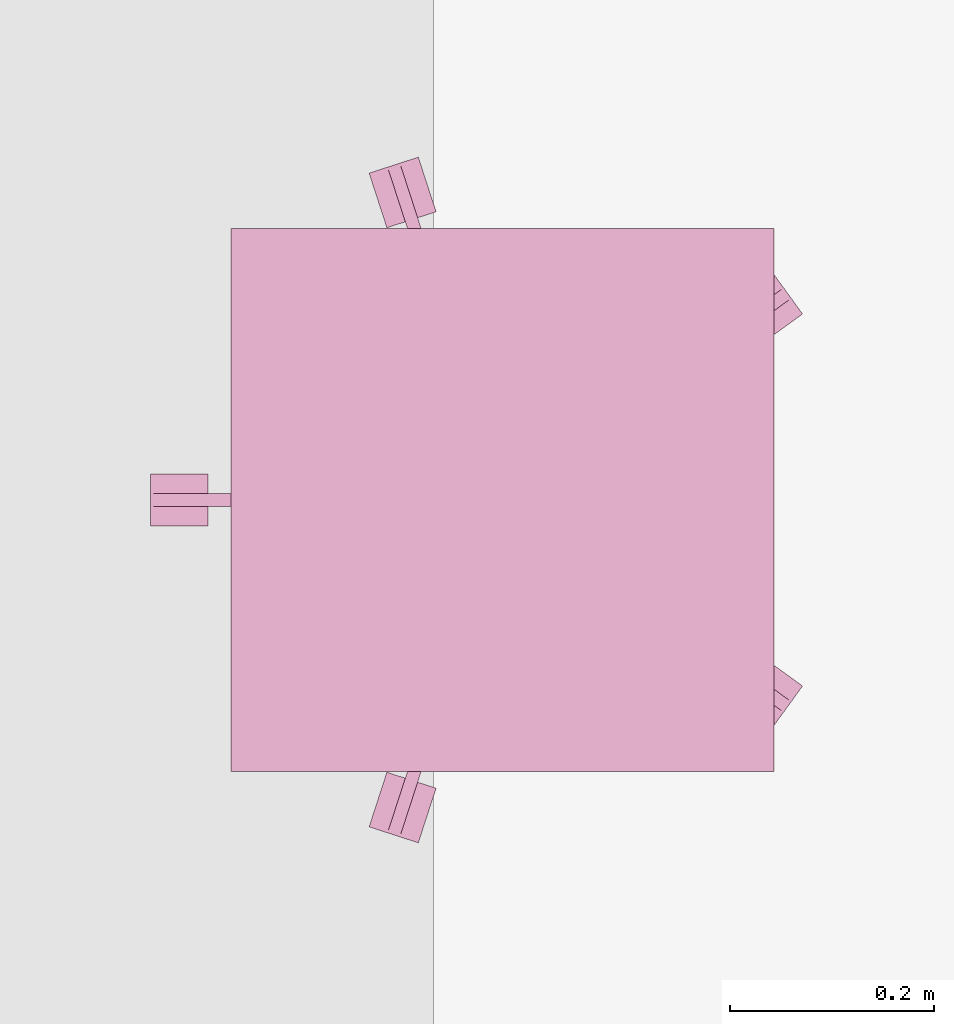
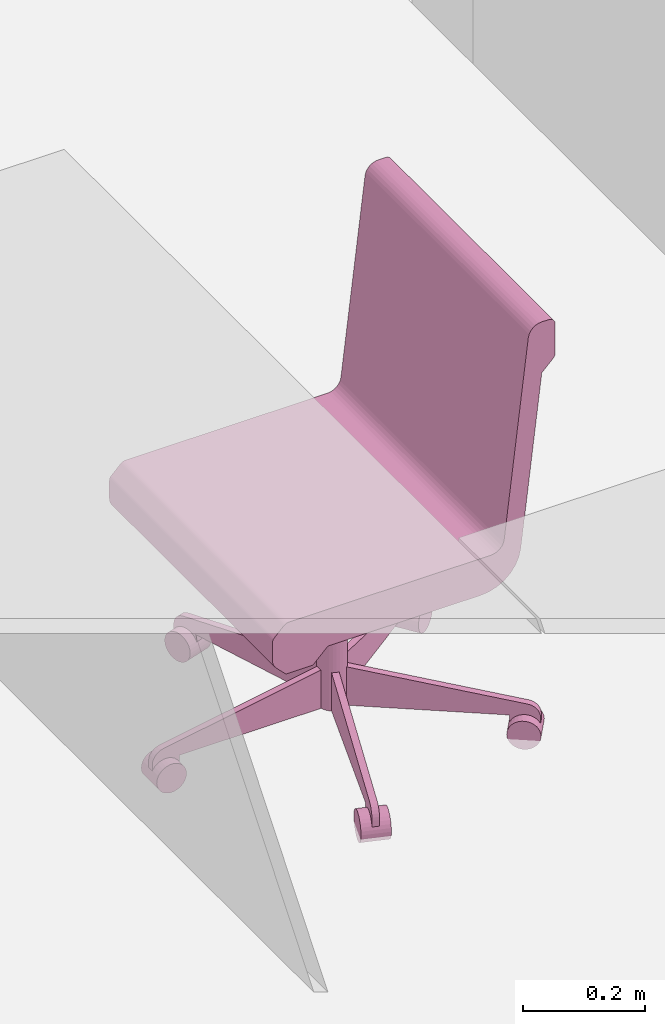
# One storey, part 28 of 32: 1 furnishing.
"""IFC2X3 building model written with IfcOpenShell, lengths in metres."""

from ifc_helpers import new_model, entity, si_unit, converted_unit, derived_unit, direction, frame, frame_2d, origin, place, context, subcontext, project, spatial, polyline, circle_curve, parameter, trimmed, segment, composite_curve, circle, outline, extrude, source, transform, mapped, material, material_list, type_object, type_shapes, element, save


model = new_model("IFC2X3")

# Units and contexts
model_context = context("Model", 3, precision=1e-05, world=origin(), true_north=direction((6.12303176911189e-17, 1.0)))
plan_context = context("Plan", 3, precision=1e-05, world=origin(), true_north=direction((6.12303176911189e-17, 1.0)))
body_context = subcontext(model_context, "Body", "Model", "MODEL_VIEW")
ifc_project = project(units=[si_unit("LENGTHUNIT", "METRE"), si_unit("AREAUNIT", "SQUARE_METRE"), si_unit("VOLUMEUNIT", "CUBIC_METRE"), converted_unit("PLANEANGLEUNIT", "DEGREE", entity("IfcRatioMeasure", 0.0174532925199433), si_unit("PLANEANGLEUNIT", "RADIAN"), dimensions=[0, 0, 0, 0, 0, 0, 0]), si_unit("MASSUNIT", "GRAM", prefix="KILO"), derived_unit("MASSDENSITYUNIT", [(si_unit("MASSUNIT", "GRAM", prefix="KILO"), 1), (si_unit("LENGTHUNIT", "METRE"), -3)]), derived_unit("MOMENTOFINERTIAUNIT", [(si_unit("LENGTHUNIT", "METRE"), 4)]), si_unit("TIMEUNIT", "SECOND"), si_unit("FREQUENCYUNIT", "HERTZ"), si_unit("THERMODYNAMICTEMPERATUREUNIT", "DEGREE_CELSIUS"), derived_unit("THERMALTRANSMITTANCEUNIT", [(si_unit("MASSUNIT", "GRAM", prefix="KILO"), 1), (si_unit("THERMODYNAMICTEMPERATUREUNIT", "KELVIN"), -1), (si_unit("TIMEUNIT", "SECOND"), -3)]), derived_unit("VOLUMETRICFLOWRATEUNIT", [(si_unit("LENGTHUNIT", "METRE"), 3), (si_unit("TIMEUNIT", "SECOND"), -1)]), si_unit("ELECTRICCURRENTUNIT", "AMPERE"), si_unit("ELECTRICVOLTAGEUNIT", "VOLT"), si_unit("POWERUNIT", "WATT"), si_unit("FORCEUNIT", "NEWTON", prefix="KILO"), si_unit("ILLUMINANCEUNIT", "LUX"), si_unit("LUMINOUSFLUXUNIT", "LUMEN"), si_unit("LUMINOUSINTENSITYUNIT", "CANDELA"), derived_unit("USERDEFINED", [(si_unit("MASSUNIT", "GRAM", prefix="KILO"), -1), (si_unit("LENGTHUNIT", "METRE"), -2), (si_unit("TIMEUNIT", "SECOND"), 3), (si_unit("LUMINOUSFLUXUNIT", "LUMEN"), 1)]), derived_unit("LINEARVELOCITYUNIT", [(si_unit("LENGTHUNIT", "METRE"), 1), (si_unit("TIMEUNIT", "SECOND"), -1)]), si_unit("PRESSUREUNIT", "PASCAL"), derived_unit("USERDEFINED", [(si_unit("LENGTHUNIT", "METRE"), -2), (si_unit("MASSUNIT", "GRAM", prefix="KILO"), 1), (si_unit("TIMEUNIT", "SECOND"), -2)]), derived_unit("LINEARFORCEUNIT", [(si_unit("MASSUNIT", "GRAM", prefix="KILO"), 1), (si_unit("LENGTHUNIT", "METRE"), 1), (si_unit("TIMEUNIT", "SECOND"), -2), (si_unit("LENGTHUNIT", "METRE"), -1)]), derived_unit("PLANARFORCEUNIT", [(si_unit("MASSUNIT", "GRAM", prefix="KILO"), 1), (si_unit("LENGTHUNIT", "METRE"), 1), (si_unit("TIMEUNIT", "SECOND"), -2), (si_unit("LENGTHUNIT", "METRE"), -2)])], contexts=[model_context, plan_context])

# Site, building, storey, space
site_placement = place(None, origin())
site = spatial("IfcSite", under=ifc_project, at=site_placement, Name="Default", CompositionType="ELEMENT")
building_placement = place(site_placement, origin())
building = spatial("IfcBuilding", under=site, at=building_placement, CompositionType="ELEMENT")
storey_placement = place(building_placement, origin())
storey = spatial("IfcBuildingStorey", under=building, at=storey_placement, Name="0 Mairie RDC 0.00", CompositionType="ELEMENT", Elevation=-1.94916083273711e-14)
space_placement = place(storey_placement, origin())
space = spatial("IfcSpace", under=storey, at=space_placement, Name="16", CompositionType="ELEMENT", InteriorOrExteriorSpace="INTERNAL")

# Furnishing
ifc_material_1 = material(Name="Plastique - Gris foncé")
ifc_material_2 = material(Name="Textile - Bleu")
ifc_material_list_1 = material_list([ifc_material_1, ifc_material_1, ifc_material_1, ifc_material_1, ifc_material_1, ifc_material_1, ifc_material_1, ifc_material_1, ifc_material_1, ifc_material_1, ifc_material_2, ifc_material_1, ifc_material_1])
ifc_material_list_2 = material_list([ifc_material_1, ifc_material_1, ifc_material_1, ifc_material_1, ifc_material_1, ifc_material_1, ifc_material_1, ifc_material_1, ifc_material_1, ifc_material_1, ifc_material_2, ifc_material_1, ifc_material_1])
furniture_type = type_object("IfcFurnitureType", Name="Mobilier : Siège - 02 : Siège - 02", material=ifc_material_list_2)
shared_shape = source(origin(), body_context, "Body", "SweptSolid", [
    extrude(circle(Radius=0.0282002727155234, at=frame_2d((0.0, -4.65294469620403e-17), x_axis=(1.0, 0.0))), frame((0.43510223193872, 0.141215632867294, 0.0281835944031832), z_axis=(0.309016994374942, -0.951056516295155, 0.0), x_axis=(0.951056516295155, 0.309016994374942, 0.0)), (0.0, 0.0, 1.0), 0.0508),
    extrude(outline(composite_curve([segment(polyline([(-0.0899361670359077, -0.0155525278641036), (0.202163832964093, -0.0155525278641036)]), True, "CONTINUOUS"), segment(polyline([(0.202163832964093, -0.0155525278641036), (0.202163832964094, 0.0606474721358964)]), True, "CONTINUOUS"), segment(polyline([(0.202163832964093, 0.0606474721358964), (0.176763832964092, 0.0606474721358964)]), True, "CONTINUOUS"), segment(polyline([(0.176763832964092, 0.0606474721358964), (-0.119746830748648, 0.00836464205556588)]), True, "CONTINUOUS"), segment(trimmed(circle_curve(frame_2d((-0.115336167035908, -0.0166494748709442), x_axis=(-1.0, 0.0)), 0.0254), [parameter(280.0)], [parameter(0.0)], True, "PARAMETER"), True, "CONTINUOUS"), segment(polyline([(-0.140736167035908, -0.0166494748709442), (-0.140736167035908, -0.0409525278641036)]), True, "CONTINUOUS"), segment(polyline([(-0.140736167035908, -0.0409525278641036), (-0.0899361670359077, -0.0409525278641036)]), True, "CONTINUOUS"), segment(polyline([(-0.0899361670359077, -0.0409525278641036), (-0.0899361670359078, -0.0155525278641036)]), True, "CONTINUOUS")], self_intersect=False)), frame((0.335222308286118, 0.0753787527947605, 0.0691361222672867), z_axis=(-0.309016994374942, 0.951056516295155, 0.0), x_axis=(-0.951056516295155, -0.309016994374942, 0.0)), (0.0, 0.0, 1.0), 0.0127),
    extrude(circle(Radius=0.0282002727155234, at=frame_2d((0.0, -4.65294469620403e-17), x_axis=(1.0, 0.0))), frame((0.307063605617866, -0.252846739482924, 0.0281835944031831), z_axis=(0.80901699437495, 0.58778525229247, 0.0), x_axis=(0.58778525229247, -0.80901699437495, 0.0)), (0.0, 0.0, 1.0), 0.0508),
    extrude(outline(composite_curve([segment(polyline([(-0.0899361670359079, -0.0155525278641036), (0.202163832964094, -0.0155525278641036)]), True, "CONTINUOUS"), segment(polyline([(0.202163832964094, -0.0155525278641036), (0.202163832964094, 0.0606474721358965)]), True, "CONTINUOUS"), segment(polyline([(0.202163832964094, 0.0606474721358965), (0.176763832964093, 0.0606474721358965)]), True, "CONTINUOUS"), segment(polyline([(0.176763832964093, 0.0606474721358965), (-0.119746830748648, 0.00836464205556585)]), True, "CONTINUOUS"), segment(trimmed(circle_curve(frame_2d((-0.115336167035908, -0.0166494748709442), x_axis=(-1.0, 0.0)), 0.0254), [parameter(280.0)], [parameter(0.0)], True, "PARAMETER"), True, "CONTINUOUS"), segment(polyline([(-0.140736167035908, -0.0166494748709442), (-0.140736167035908, -0.0409525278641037)]), True, "CONTINUOUS"), segment(polyline([(-0.140736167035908, -0.0409525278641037), (-0.0899361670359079, -0.0409525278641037)]), True, "CONTINUOUS"), segment(polyline([(-0.0899361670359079, -0.0409525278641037), (-0.0899361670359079, -0.0155525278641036)]), True, "CONTINUOUS")], self_intersect=False)), frame((0.254682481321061, -0.148340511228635, 0.0691361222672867), z_axis=(0.80901699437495, 0.58778525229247, 0.0), x_axis=(-0.58778525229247, 0.80901699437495, 0.0)), (0.0, 0.0, 1.0), 0.0127),
    extrude(circle(Radius=0.0282002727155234, at=frame_2d((-4.97260413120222e-18, -4.65294469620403e-17), x_axis=(1.0, 0.0))), frame((-0.0661800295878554, -0.222987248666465, 0.0281835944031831), z_axis=(0.809016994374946, -0.587785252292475, 0.0), x_axis=(-0.587785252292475, -0.809016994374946, 0.0)), (0.0, 0.0, 1.0), 0.0508),
    extrude(outline(composite_curve([segment(polyline([(-0.0899361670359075, -0.0155525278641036), (0.202163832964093, -0.0155525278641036)]), True, "CONTINUOUS"), segment(polyline([(0.202163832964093, -0.0155525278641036), (0.202163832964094, 0.0606474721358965)]), True, "CONTINUOUS"), segment(polyline([(0.202163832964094, 0.0606474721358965), (0.176763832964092, 0.0606474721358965)]), True, "CONTINUOUS"), segment(polyline([(0.176763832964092, 0.0606474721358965), (-0.119746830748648, 0.00836464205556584)]), True, "CONTINUOUS"), segment(trimmed(circle_curve(frame_2d((-0.115336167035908, -0.0166494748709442), x_axis=(-1.0, 0.0)), 0.0254), [parameter(280.0)], [parameter(0.0)], True, "PARAMETER"), True, "CONTINUOUS"), segment(polyline([(-0.140736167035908, -0.0166494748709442), (-0.140736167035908, -0.0409525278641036)]), True, "CONTINUOUS"), segment(polyline([(-0.140736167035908, -0.0409525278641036), (-0.0899361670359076, -0.0409525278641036)]), True, "CONTINUOUS"), segment(polyline([(-0.0899361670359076, -0.0409525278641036), (-0.0899361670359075, -0.0155525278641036)]), True, "CONTINUOUS")], self_intersect=False)), frame((0.0170246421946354, -0.14087563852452, 0.0691361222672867), z_axis=(0.809016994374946, -0.587785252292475, 0.0), x_axis=(0.587785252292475, 0.809016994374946, 0.0)), (0.0, 0.0, 1.0), 0.0127),
    extrude(circle(Radius=0.0282002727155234, at=frame_2d((0.0, -4.65294469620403e-17), x_axis=(1.0, 0.0))), frame((-0.168818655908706, 0.0929019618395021, 0.0281835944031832), z_axis=(0.309016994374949, 0.951056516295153, 0.0), x_axis=(-0.951056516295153, 0.309016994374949, 0.0)), (0.0, 0.0, 1.0), 0.0508),
    extrude(outline(composite_curve([segment(polyline([(0.0155525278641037, 0.0899361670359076), (0.0409525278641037, 0.0899361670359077)]), True, "CONTINUOUS"), segment(polyline([(0.0409525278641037, 0.0899361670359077), (0.0409525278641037, 0.140736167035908)]), True, "CONTINUOUS"), segment(polyline([(0.0409525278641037, 0.140736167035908), (0.0166494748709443, 0.140736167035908)]), True, "CONTINUOUS"), segment(trimmed(circle_curve(frame_2d((0.0166494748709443, 0.115336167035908), x_axis=(0.0, 1.0)), 0.0254), [parameter(0.0)], [parameter(80.0000000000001)], True, "PARAMETER"), True, "CONTINUOUS"), segment(polyline([(-0.00836464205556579, 0.119746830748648), (-0.0606474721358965, -0.176763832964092)]), True, "CONTINUOUS"), segment(polyline([(-0.0606474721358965, -0.176763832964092), (-0.0606474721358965, -0.202163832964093)]), True, "CONTINUOUS"), segment(polyline([(-0.0606474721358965, -0.202163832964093), (0.0155525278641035, -0.202163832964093)]), True, "CONTINUOUS"), segment(polyline([(0.0155525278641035, -0.202163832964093), (0.0155525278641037, 0.0899361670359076)]), True, "CONTINUOUS")], self_intersect=False)), frame((-0.053240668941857, 0.0753787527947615, 0.0691361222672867), z_axis=(0.309016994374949, 0.951056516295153, 0.0), x_axis=(0.0, 0.0, -1.0)), (0.0, 0.0, 1.0), 0.0127),
    extrude(circle(Radius=0.0282002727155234, at=frame_2d((0.0, -4.65294469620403e-17), x_axis=(1.0, 0.0))), frame((0.11559081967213, 0.336445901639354, 0.0281835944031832), z_axis=(1.0, 0.0, 0.0), x_axis=(0.0, 1.0, 0.0)), (0.0, 0.0, 1.0), 0.0508),
    extrude(outline(composite_curve([segment(polyline([(0.0155525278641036, 0.0899361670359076), (0.0409525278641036, 0.0899361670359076)]), True, "CONTINUOUS"), segment(polyline([(0.0409525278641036, 0.0899361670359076), (0.0409525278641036, 0.140736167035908)]), True, "CONTINUOUS"), segment(polyline([(0.0409525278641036, 0.140736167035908), (0.0166494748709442, 0.140736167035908)]), True, "CONTINUOUS"), segment(trimmed(circle_curve(frame_2d((0.0166494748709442, 0.115336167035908), x_axis=(0.0, 1.0)), 0.0254), [parameter(0.0)], [parameter(79.9999999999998)], True, "PARAMETER"), True, "CONTINUOUS"), segment(polyline([(-0.00836464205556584, 0.119746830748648), (-0.0606474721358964, -0.176763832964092)]), True, "CONTINUOUS"), segment(polyline([(-0.0606474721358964, -0.176763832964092), (-0.0606474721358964, -0.202163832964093)]), True, "CONTINUOUS"), segment(polyline([(-0.0606474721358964, -0.202163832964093), (0.0155525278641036, -0.202163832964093)]), True, "CONTINUOUS"), segment(polyline([(0.0155525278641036, -0.202163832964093), (0.0155525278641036, 0.0899361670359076)]), True, "CONTINUOUS")], self_intersect=False)), frame((0.13464081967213, 0.221109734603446, 0.0691361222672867), z_axis=(1.0, 0.0, 0.0), x_axis=(0.0, 0.0, -1.0)), (0.0, 0.0, 1.0), 0.0127),
    extrude(outline(composite_curve([segment(polyline([(0.132083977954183, -0.109827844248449), (-0.249131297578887, -0.109827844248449)]), True, "CONTINUOUS"), segment(trimmed(circle_curve(frame_2d((-0.249131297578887, -0.122527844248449), x_axis=(1.0, 0.0)), 0.0127), [parameter(90.0000000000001)], [parameter(134.808555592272)], True, "PARAMETER"), True, "CONTINUOUS"), segment(polyline([(-0.258081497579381, -0.113517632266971), (-0.276017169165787, -0.131333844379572)]), True, "CONTINUOUS"), segment(trimmed(circle_curve(frame_2d((-0.267066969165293, -0.14034405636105), x_axis=(1.0, 0.0)), 0.0127), [parameter(134.808555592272)], [parameter(180.0)], True, "PARAMETER"), True, "CONTINUOUS"), segment(polyline([(-0.279766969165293, -0.14034405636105), (-0.279766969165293, -0.175387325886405)]), True, "CONTINUOUS"), segment(trimmed(circle_curve(frame_2d((-0.254366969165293, -0.175387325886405), x_axis=(1.0, 0.0)), 0.0254), [parameter(180.0)], [parameter(224.808555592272)], True, "PARAMETER"), True, "CONTINUOUS"), segment(polyline([(-0.272387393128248, -0.193287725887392), (-0.254368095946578, -0.211427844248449)]), True, "CONTINUOUS"), segment(polyline([(-0.254368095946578, -0.211427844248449), (-0.203568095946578, -0.211427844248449)]), True, "CONTINUOUS"), segment(polyline([(-0.203568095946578, -0.211427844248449), (-0.175195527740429, -0.183244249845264)]), True, "CONTINUOUS"), segment(polyline([(-0.175195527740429, -0.183244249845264), (0.112987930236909, -0.183244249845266)]), True, "CONTINUOUS"), segment(trimmed(circle_curve(frame_2d((0.112987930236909, -0.107044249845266), x_axis=(1.0, 0.0)), 0.0762), [parameter(270.0)], [parameter(353.290163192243)], True, "PARAMETER"), True, "CONTINUOUS"), segment(polyline([(0.188666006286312, -0.1159475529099), (0.228233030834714, 0.220372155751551)]), True, "CONTINUOUS"), segment(polyline([(0.228233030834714, 0.220372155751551), (0.249913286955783, 0.242052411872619)]), True, "CONTINUOUS"), segment(trimmed(circle_curve(frame_2d((0.240933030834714, 0.251032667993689), x_axis=(1.0, 0.0)), 0.0127), [parameter(314.999999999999)], [parameter(359.999999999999)], True, "PARAMETER"), True, "CONTINUOUS"), segment(polyline([(0.253633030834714, 0.251032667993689), (0.253633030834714, 0.309272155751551)]), True, "CONTINUOUS"), segment(trimmed(circle_curve(frame_2d((0.240933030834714, 0.309272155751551), x_axis=(1.0, 0.0)), 0.0127), [parameter(359.999999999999)], [parameter(89.9999999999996)], True, "PARAMETER"), True, "CONTINUOUS"), segment(polyline([(0.240933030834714, 0.321972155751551), (0.228057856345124, 0.321972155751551)]), True, "CONTINUOUS"), segment(trimmed(circle_curve(frame_2d((0.228057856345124, 0.296572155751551), x_axis=(1.0, 0.0)), 0.0254), [parameter(90.0000000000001)], [parameter(173.290163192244)], True, "PARAMETER"), True, "CONTINUOUS"), segment(polyline([(0.202831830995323, 0.299539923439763), (0.157310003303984, -0.0873956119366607)]), True, "CONTINUOUS"), segment(trimmed(circle_curve(frame_2d((0.132083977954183, -0.084427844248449), x_axis=(1.0, 0.0)), 0.0254), [parameter(270.0)], [parameter(353.290163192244)], True, "PARAMETER"), False, "CONTINUOUS")], self_intersect=False)), frame((-0.125709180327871, 0.00587893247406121, 0.567027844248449), z_axis=(-1.0, 0.0, 0.0), x_axis=(0.0, -1.0, 0.0)), (0.0, 0.0, -1.0), 0.5334),
    extrude(circle(Radius=0.0254, at=frame_2d((0.0, -4.01845223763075e-17), x_axis=(1.0, 0.0))), frame((0.14099081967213, 0.0189459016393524, 0.0535835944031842)), (0.0, 0.0, 1.0), 0.330591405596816),
    extrude(outline(polyline([(-0.0457199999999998, -0.0428152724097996), (0.0431799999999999, -0.0428152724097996), (0.0431799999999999, 0.0578729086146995), (0.00507999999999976, 0.0578729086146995), (-0.0457199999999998, -0.0301152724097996), (-0.0457199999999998, -0.0428152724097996)])), frame((0.09019081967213, 0.0240259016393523, 0.340968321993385), z_axis=(1.0, 0.0, 0.0), x_axis=(0.0, -1.0, 0.0)), (0.0, 0.0, 1.0), 0.1016),
])
type_shapes(furniture_type, [shared_shape])
furnishing_placement = place(space_placement, frame((-6.04055080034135, -9.87955704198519, -0.02), z_axis=(0.0, 0.0, 1.0), x_axis=(0.0, 1.0, 0.0)))
element("IfcFurnishingElement", 1, at=furnishing_placement, inside=space, type_object=furniture_type, material=ifc_material_list_1, Name="Mobilier : Siège - 02 : Siège - 02", ObjectType="Siège - 02:Siège - 02", context=body_context, shape_type="MappedRepresentation", body=[
    mapped(shared_shape, transform((0.0, 0.0, 0.0), scale=1.0)),
])

save(model, "model.ifc")
